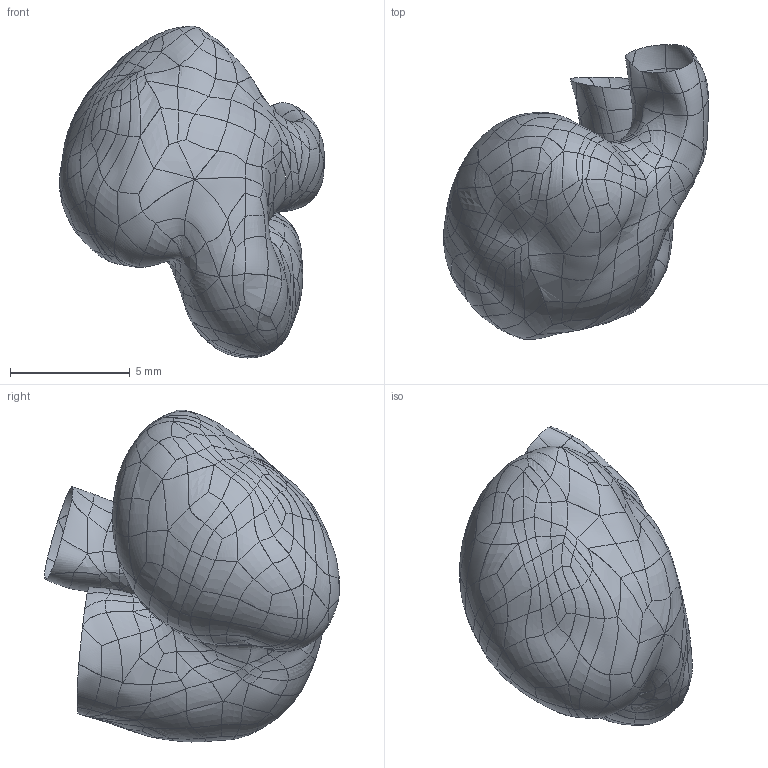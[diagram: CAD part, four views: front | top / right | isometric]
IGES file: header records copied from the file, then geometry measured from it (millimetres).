
Start section: Geomagic Studio
Global section: file name: C:\Users\user\Desktop\DICOM?\Ivanova\IvanovaStart.igs; native system: Geomagic -- Studio 2014; preprocessor: 2014; author: <unspecified>; organization: <unspecified>; date: 20200415.111327; units: millimetre
Bounding box: 11.05 x 12.3 x 13.84 mm (x, y, z)
Surface area: 442.4 mm2 (no closed solid volume)
Topology: 0 solids, 0 shells, 554 faces, 2216 edges, 2216 vertices
Faces by surface type: bspline 554
